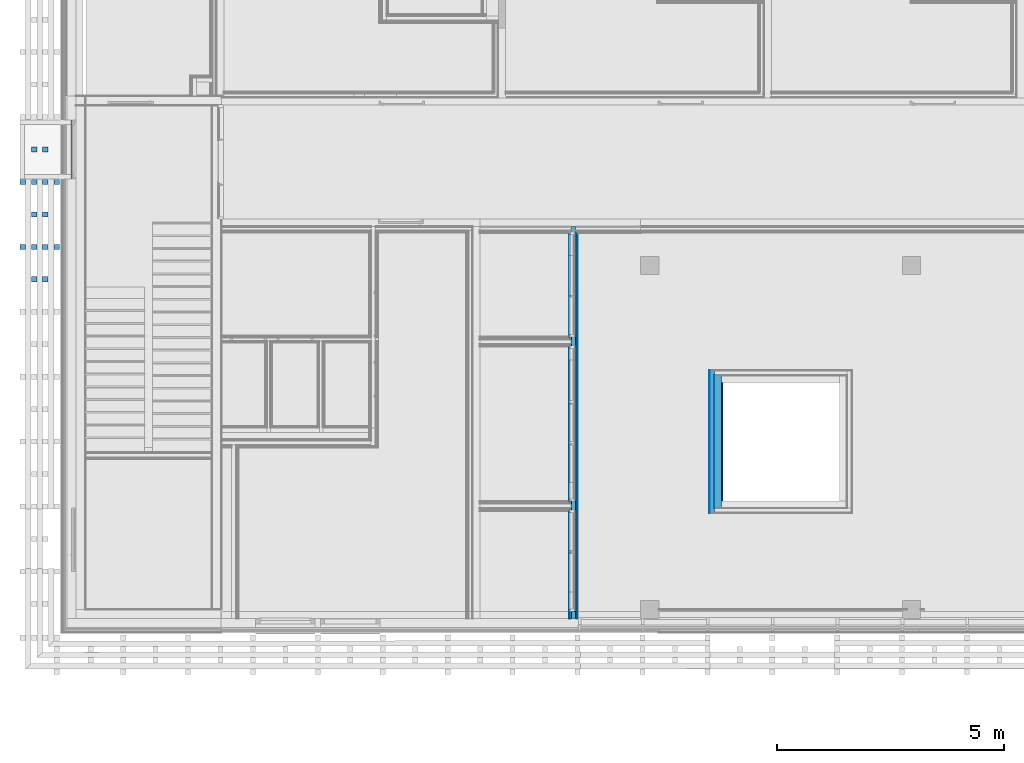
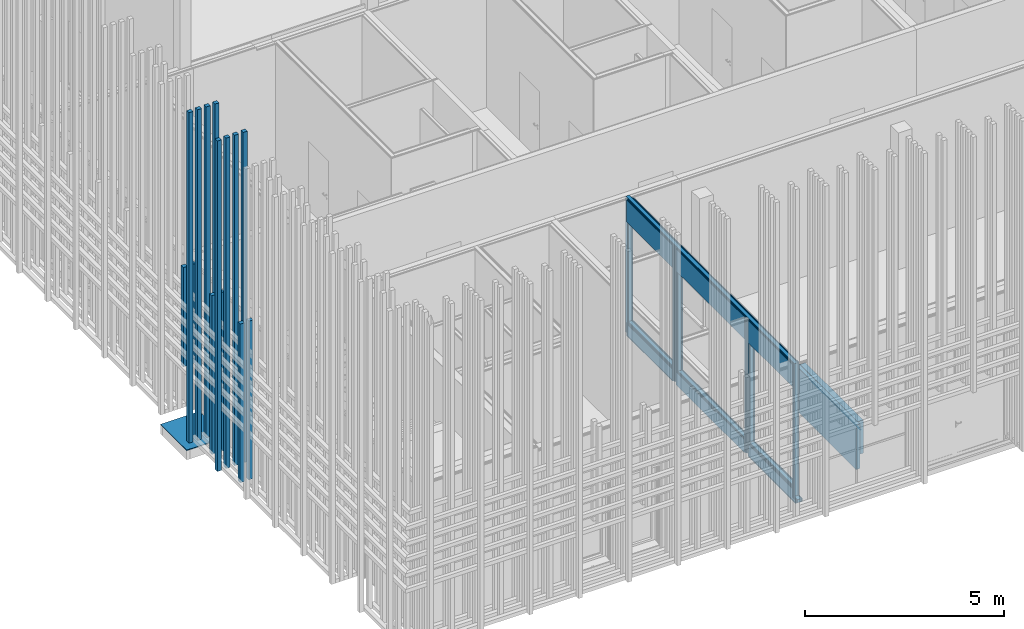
# One storey, part 153 of 260: 13 building element parts, 6 discrete accessories, 3 openings, 3 elements without a shape of their own.
"""IFC2X3 building model written with IfcOpenShell, lengths in millimetres."""

from ifc_helpers import new_model, entity, si_unit, converted_unit, derived_unit, money_unit, direction, frame, origin_with_axes, place, context, subcontext, project, spatial, faceted_brep, material, material_list, type_object, element, aggregate, save


model = new_model("IFC2X3")

# Units and contexts
model_context = context("Model", 3, precision=0.01, world=origin_with_axes(), true_north=direction((0.0, 1.0)))
body_context = subcontext(model_context, "Body", "Model", "MODEL_VIEW")
ifc_project = project(units=[si_unit("LENGTHUNIT", "METRE", prefix="MILLI"), si_unit("AREAUNIT", "SQUARE_METRE"), si_unit("VOLUMEUNIT", "CUBIC_METRE"), converted_unit("PLANEANGLEUNIT", "DEGREE", entity("IfcPlaneAngleMeasure", 0.0174532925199), si_unit("PLANEANGLEUNIT", "RADIAN"), dimensions=[0, 0, 0, 0, 0, 0, 0]), money_unit("EUR"), converted_unit("TIMEUNIT", "Year", entity("IfcTimeMeasure", 31556926.0), si_unit("TIMEUNIT", "SECOND"), dimensions=[0, 0, 1, 0, 0, 0, 0]), si_unit("MASSUNIT", "GRAM", prefix="KILO"), si_unit("THERMODYNAMICTEMPERATUREUNIT", "DEGREE_CELSIUS"), si_unit("LUMINOUSINTENSITYUNIT", "LUMEN"), si_unit("ENERGYUNIT", "JOULE", prefix="MEGA"), derived_unit("THERMALCONDUCTANCEUNIT", [(si_unit("POWERUNIT", "WATT"), 1), (si_unit("LENGTHUNIT", "METRE"), -1), (si_unit("THERMODYNAMICTEMPERATUREUNIT", "KELVIN"), -1)]), derived_unit("SPECIFICHEATCAPACITYUNIT", [(si_unit("ENERGYUNIT", "JOULE"), 1), (si_unit("MASSUNIT", "GRAM", prefix="KILO"), -1), (si_unit("THERMODYNAMICTEMPERATUREUNIT", "KELVIN"), -1)]), derived_unit("MASSDENSITYUNIT", [(si_unit("MASSUNIT", "GRAM", prefix="KILO"), 1), (si_unit("VOLUMEUNIT", "CUBIC_METRE"), -1)])], contexts=[model_context])

# Site, building, storey
site_placement = place(None, origin_with_axes())
site = spatial("IfcSite", under=ifc_project, at=site_placement, Name="Kolde pst 67a", CompositionType="ELEMENT")
building_placement = place(site_placement, origin_with_axes())
building = spatial("IfcBuilding", under=site, at=building_placement, Name="Riigigümnaasium", CompositionType="ELEMENT")
storey_placement = place(building_placement, origin_with_axes())
storey = spatial("IfcBuildingStorey", under=building, at=storey_placement, Name="1. korrus", CompositionType="ELEMENT", Elevation=0.0)

# Discrete accessories
ifc_material_1 = material(Name="_VÄLISVIIMISTLUS - sõrmjätkatud puitprussid 120x115mm, liitekohad vähemärgatavad, Platowood sõrmjätkatud kuusk või samaväärne; eeltöödeldud tuletõkkevõõbaga, tuletundlikkus B-s1, d0, Woodsafe Exterior WFX™ või samaväärne; kinnitused vastavalt EK osale")
ifc_material_list_1 = material_list([ifc_material_1, ifc_material_1, ifc_material_1, ifc_material_1])
discrete_accessory_type_1 = type_object("IfcDiscreteAccessoryType", Name="120 4-ne vertikaalne 870 x 115")
for number, where, z_axis, x_axis in (
    (1, (-310.003213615, 57672.2222773, 280.0), (0.0, 0.0, 1.0), (0.999999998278, -5.86859191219e-05, 0.0)),
    (2, (-310.003213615, 56242.2222773, 280.0), (0.0, 0.0, 1.0), (0.999999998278, -5.86859191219e-05, 0.0)),
):
    element("IfcDiscreteAccessory", number, at=place(storey_placement, frame(where, z_axis=z_axis, x_axis=x_axis)), inside=storey, type_object=discrete_accessory_type_1, material=ifc_material_list_1, Name="Päikesevarjestus", context=body_context, shape_type="Brep", body=[
        faceted_brep([(-133.0, -70.0, 0.0), (-13.0, -70.0, 0.0), (-13.0, -70.0, 10140.0), (-133.0, -70.0, 10140.0), (-133.0, 45.0, 0.0), (-13.0, 45.0, 0.0), (-13.0, 45.0, 10140.0), (-133.0, 45.0, 10140.0)], [[[0, 1, 2, 3]], [[0, 4, 5, 1]], [[1, 5, 6, 2]], [[3, 2, 6, 7]], [[4, 0, 3, 7]], [[5, 4, 7, 6]]]),
        faceted_brep([(-383.0, -70.0, 0.0), (-263.0, -70.0, 0.0), (-263.0, -70.0, 10140.0), (-383.0, -70.0, 10140.0), (-383.0, 45.0, 0.0), (-263.0, 45.0, 0.0), (-263.0, 45.0, 10140.0), (-383.0, 45.0, 10140.0)], [[[0, 1, 2, 3]], [[0, 4, 5, 1]], [[1, 5, 6, 2]], [[3, 2, 6, 7]], [[4, 0, 3, 7]], [[5, 4, 7, 6]]]),
        faceted_brep([(-633.0, -70.0, 0.0), (-513.0, -70.0, 0.0), (-513.0, -70.0, 10140.0), (-633.0, -70.0, 10140.0), (-633.0, 45.0, 0.0), (-513.0, 45.0, 0.0), (-513.0, 45.0, 10140.0), (-633.0, 45.0, 10140.0)], [[[0, 1, 2, 3]], [[0, 4, 5, 1]], [[1, 5, 6, 2]], [[3, 2, 6, 7]], [[4, 0, 3, 7]], [[5, 4, 7, 6]]]),
        faceted_brep([(-883.0, -70.0, 0.0), (-763.0, -70.0, 0.0), (-763.0, -70.0, 10140.0), (-883.0, -70.0, 10140.0), (-883.0, 45.0, 0.0), (-763.0, 45.0, 0.0), (-763.0, 45.0, 10140.0), (-883.0, 45.0, 10140.0)], [[[0, 1, 2, 3]], [[0, 4, 5, 1]], [[1, 5, 6, 2]], [[3, 2, 6, 7]], [[4, 0, 3, 7]], [[5, 4, 7, 6]]]),
    ])
ifc_material_list_2 = material_list([ifc_material_1, ifc_material_1])
discrete_accessory_type_2 = type_object("IfcDiscreteAccessoryType", Name="1+paiksekaitse 3 370 x 115")
discrete_accessory_1_placement = place(storey_placement, frame((-1290.00746728, 55454.7586626, 280.0), z_axis=(0.0, 0.0, 1.0), x_axis=(1.0, 0.0, 0.0)))
element("IfcDiscreteAccessory", 3, at=discrete_accessory_1_placement, inside=storey, type_object=discrete_accessory_type_2, material=ifc_material_list_2, Name="Päikesevarjestus", context=body_context, shape_type="Brep", body=[
    faceted_brep([(467.0, 117.5, 0.0), (347.0, 117.5, 0.0), (347.0, 117.5, 4870.0), (467.0, 117.5, 4870.0), (467.0, 2.5, 0.0), (347.0, 2.5, 0.0), (347.0, 2.5, 4870.0), (467.0, 2.5, 4870.0)], [[[0, 1, 2, 3]], [[0, 4, 5, 1]], [[1, 5, 6, 2]], [[3, 2, 6, 7]], [[4, 0, 3, 7]], [[5, 4, 7, 6]]]),
    faceted_brep([(717.0, 117.5, 0.0), (597.0, 117.5, 0.0), (597.0, 117.5, 4870.0), (717.0, 117.5, 4870.0), (717.0, 2.5, 0.0), (597.0, 2.5, 0.0), (597.0, 2.5, 4870.0), (717.0, 2.5, 4870.0)], [[[0, 1, 2, 3]], [[0, 4, 5, 1]], [[1, 5, 6, 2]], [[3, 2, 6, 7]], [[4, 0, 3, 7]], [[5, 4, 7, 6]]]),
])
discrete_accessory_2_placement = place(storey_placement, frame((-1290.00746728, 56884.7586626, 280.0), z_axis=(0.0, 0.0, 1.0), x_axis=(1.0, 0.0, 0.0)))
element("IfcDiscreteAccessory", 4, at=discrete_accessory_2_placement, inside=storey, type_object=discrete_accessory_type_2, material=ifc_material_list_2, Name="Päikesevarjestus", context=body_context, shape_type="Brep", body=[
    faceted_brep([(467.0, 117.5, 0.0), (347.0, 117.5, 0.0), (347.0, 117.5, 4870.00014213), (467.0, 117.5, 4870.00014213), (467.0, 2.5, 0.0), (347.0, 2.5, 0.0), (347.0, 2.5, 4870.00014213), (467.0, 2.5, 4870.00014213)], [[[0, 1, 2, 3]], [[0, 4, 5, 1]], [[1, 5, 6, 2]], [[3, 2, 6, 7]], [[4, 0, 3, 7]], [[5, 4, 7, 6]]]),
    faceted_brep([(717.0, 117.5, 0.0), (597.0, 117.5, 0.0), (597.0, 117.5, 4870.00014213), (717.0, 117.5, 4870.00014213), (717.0, 2.5, 0.0), (597.0, 2.5, 0.0), (597.0, 2.5, 4870.00014213), (717.0, 2.5, 4870.00014213)], [[[0, 1, 2, 3]], [[0, 4, 5, 1]], [[1, 5, 6, 2]], [[3, 2, 6, 7]], [[4, 0, 3, 7]], [[5, 4, 7, 6]]]),
])
discrete_accessory_3_placement = place(storey_placement, frame((-1290.00746728, 58314.7586626, 2100.00014213), z_axis=(0.0, 0.0, 1.0), x_axis=(1.0, 0.0, 0.0)))
element("IfcDiscreteAccessory", 5, at=discrete_accessory_3_placement, inside=storey, type_object=discrete_accessory_type_2, material=ifc_material_list_2, Name="Päikesevarjestus", context=body_context, shape_type="Brep", body=[
    faceted_brep([(467.0, 117.5, 0.0), (347.0, 117.5, 0.0), (347.0, 117.5, 3050.0), (467.0, 117.5, 3050.0), (467.0, 2.5, 0.0), (347.0, 2.5, 0.0), (347.0, 2.5, 3050.0), (467.0, 2.5, 3050.0)], [[[0, 1, 2, 3]], [[0, 4, 5, 1]], [[1, 5, 6, 2]], [[3, 2, 6, 7]], [[4, 0, 3, 7]], [[5, 4, 7, 6]]]),
    faceted_brep([(717.0, 117.5, 0.0), (597.0, 117.5, 0.0), (597.0, 117.5, 3050.0), (717.0, 117.5, 3050.0), (717.0, 2.5, 0.0), (597.0, 2.5, 0.0), (597.0, 2.5, 3050.0), (717.0, 2.5, 3050.0)], [[[0, 1, 2, 3]], [[0, 4, 5, 1]], [[1, 5, 6, 2]], [[3, 2, 6, 7]], [[4, 0, 3, 7]], [[5, 4, 7, 6]]]),
])
ifc_material_2 = material(Name="_METALL - teras")
discrete_accessory_type_3 = type_object("IfcDiscreteAccessoryType", Name="_METALL - teras 22")
discrete_accessory_4_placement = place(storey_placement, frame((-1191.30730667, 59029.7739288, 0.0), z_axis=(0.0, 0.0, 1.0), x_axis=(1.0, 0.0, 0.0)))
element("IfcDiscreteAccessory", 6, at=discrete_accessory_4_placement, inside=storey, type_object=discrete_accessory_type_3, material=ifc_material_2, Name="30mm süvistatud roostevaba porirest betoonalusel vastavalt EK osale, kalle kaevu poole ≥1:80; resti silm 33x11mm, hambuline; porirest eemaldatav puhastuseks; vt joonist AR-7-207; sadevee kogumiseks resti all settepõhjaga restkaev, maapinnast -200mm kõrgusel, vesi koguneb sadeveetorustikku, vt VK osa", context=body_context, shape_type="Brep", body=[
    faceted_brep([(0.0, 0.0, 0.0), (0.0, 0.0, -22.0), (0.00704231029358, -1310.00000018, -22.0), (0.00704231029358, -1310.00000018, 0.0), (1130.69360118, 0.00607839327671, 0.0), (1130.69360118, 0.00607839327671, -22.0), (1130.70064349, -1309.99392179, -22.0), (1130.70064349, -1309.99392179, 0.0)], [[[0, 1, 2, 3]], [[4, 5, 1, 0]], [[2, 1, 5, 6]], [[3, 2, 6, 7]], [[4, 0, 3, 7]], [[7, 6, 5, 4]]]),
])

# Wall, building element parts
wall_type_1 = type_object("IfcWallType", Name="VS-RB-16/1_mullakast 273", PredefinedType="NOTDEFINED")
wall_1_placement = place(storey_placement, frame((14105.000519, 53394.9876282, -1460.1), z_axis=(0.0, 0.0, 1.0), x_axis=(0.0, -1.0, 0.0)))
wall_1 = element("IfcWall", 7, at=wall_1_placement, inside=storey, type_object=wall_type_1, Name="taimekast")
ifc_material_3 = material(Name="_KANDETARIND - monoliitne raudbetoon vastavalt EK osale")
building_element_part_1_placement = place(wall_1_placement, origin_with_axes())
building_element_part_1 = element("IfcBuildingElementPart", 8, at=building_element_part_1_placement, material=ifc_material_3, Name="_KANDETARIND - monoliitne raudbetoon vastavalt EK osale", context=body_context, shape_type="Brep", body=[
    faceted_brep([(2920.0, 160.0, 350.1), (0.0, 160.0, 350.1), (0.0, 160.0, 1360.1), (2920.0, 160.0, 1360.1), (0.0, 0.0, 350.1), (2920.0, 0.0, 350.1), (0.0, 0.0, 1360.1), (2920.0, 0.0, 1360.1)], [[[0, 1, 2, 3]], [[4, 1, 0, 5]], [[1, 4, 6, 2]], [[7, 3, 2, 6]], [[5, 0, 3, 7]], [[4, 5, 7, 6]]]),
])
ifc_material_4 = material(Name="_HÜDROISOLATSIOON/RADOONITÕKE - eelpaigaldatav elastne hüdroisolatsioonimembraan, värske betooniga nakkuv, radoonitihe, FORSOC PROOFEX 3000 või samaväärne")
building_element_part_2_placement = place(wall_1_placement, origin_with_axes())
building_element_part_2 = element("IfcBuildingElementPart", 9, at=building_element_part_2_placement, material=ifc_material_4, Name="_HÜDROISOLATSIOON/RADOONITÕKE - eelpaigaldatav elastne hüdroisolatsioonimembraan, värske betooniga nakkuv, radoonitihe, FORSOC PROOFEX 3000 või samaväärne", context=body_context, shape_type="Brep", body=[
    faceted_brep([(2923.0, 0.0, 350.1), (-3.0, 0.0, 350.1), (-3.0, 0.0, 1360.1), (2923.0, 0.0, 1360.1), (-3.0, -3.0, 350.1), (2923.0, -3.0, 350.1), (-3.0, -3.0, 1360.1), (2923.0, -3.0, 1360.1)], [[[0, 1, 2, 3]], [[4, 1, 0, 5]], [[1, 4, 6, 2]], [[7, 3, 2, 6]], [[5, 0, 3, 7]], [[4, 5, 7, 6]]]),
])
ifc_material_5 = material(Name="_SOOJUSTUS - vahtpolüstüreenplaadid EPS 120 Perimeeter, survetugevus min. 120kPa, veeimavus <2%, soojuserijuhtivus λD<0,036 W/(mK)")
building_element_part_3_placement = place(wall_1_placement, origin_with_axes())
building_element_part_3 = element("IfcBuildingElementPart", 10, at=building_element_part_3_placement, material=ifc_material_5, Name="_SOOJUSTUS - vahtpolüstüreenplaadid EPS 120 Perimeeter, survetugevus min. 120kPa, veeimavus <2%, soojuserijuhtivus λD<0,036 W/(mK)", context=body_context, shape_type="Brep", body=[
    faceted_brep([(2963.0, -3.0, 0.0), (2963.0, -3.0, 350.1), (-43.0, -3.0, 350.1), (-43.0, -3.0, 0.0), (-103.0, -3.0, 0.0), (-103.0, -3.0, 1360.1), (3023.0, -3.0, 1360.1), (3023.0, -3.0, 0.0), (2963.0, -43.0, 0.0), (2963.0, -43.0, 350.1), (-43.0, -43.0, 350.1), (-43.0, -43.0, 0.0), (3023.0, -103.0, 0.0), (-103.0, -103.0, 0.0), (-103.0, -103.0, 1360.1), (3023.0, -103.0, 1360.1)], [[[0, 1, 2, 3, 4, 5, 6, 7]], [[1, 0, 8, 9]], [[2, 1, 9, 10]], [[3, 2, 10, 11]], [[8, 0, 7, 12, 13, 4, 3, 11]], [[5, 4, 13, 14]], [[15, 6, 5, 14]], [[12, 7, 6, 15]], [[8, 11, 10, 9]], [[12, 15, 14, 13]]]),
])
ifc_material_6 = material(Name="_ALUSKATE - drenaaži- ja kaitsematt geotekstiiliga soojustuse kaitseks, Interplast Iso-Drain 8 Geo või samaväärne")
building_element_part_4_placement = place(wall_1_placement, origin_with_axes())
building_element_part_4 = element("IfcBuildingElementPart", 11, at=building_element_part_4_placement, material=ifc_material_6, Name="_ALUSKATE - drenaaži- ja kaitsematt geotekstiiliga soojustuse kaitseks, Interplast Iso-Drain 8 Geo või samaväärne", context=body_context, shape_type="Brep", body=[
    faceted_brep([(3033.0, -113.0, 0.0), (-113.0, -113.0, 0.0), (-113.0, -103.0, 0.0), (3033.0, -103.0, 0.0), (3033.0, -113.0, 1360.1), (-113.0, -113.0, 1360.1), (-113.0, -103.0, 1360.1), (3033.0, -103.0, 1360.1)], [[[0, 1, 2, 3]], [[4, 5, 1, 0]], [[2, 1, 5, 6]], [[3, 2, 6, 7]], [[3, 7, 4, 0]], [[7, 6, 5, 4]]]),
])
aggregate(wall_1, [building_element_part_1, building_element_part_2, building_element_part_3, building_element_part_4])

# Wall, openings, building element parts
wall_type_2 = type_object("IfcWallType", Name="SS-PK-10/1_vill100+2dold 220", PredefinedType="NOTDEFINED")
wall_2_placement = place(storey_placement, frame((11110.0462125, 56839.9979478, 0.0), z_axis=(0.0, 0.0, 1.0), x_axis=(-0.000164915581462, -0.999999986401, 0.0)))
wall_2 = element("IfcWall", 12, at=wall_2_placement, inside=storey, type_object=wall_type_2, Name="Sisesein")
opening_1_placement = place(wall_2_placement, frame((1452.52344941, 0.0, 400.0), z_axis=(0.0, 0.0, 1.0), x_axis=(1.0, 0.0, 0.0)))
element("IfcOpeningElement", 13, at=opening_1_placement, cuts=wall_2, Name="Ava", context=body_context, shape_type="Brep", body=[
    faceted_brep([(1162.48056742, 220.0, 0.0), (1162.48056742, 220.0, 3090.0), (1162.48056742, -440.0, 3090.0), (1162.48056742, -440.0, 0.0), (-1162.48056742, 220.0, 0.0), (-1162.48056742, 220.0, 3090.0), (-1162.48056742, -440.0, 3090.0), (-1162.48056742, -440.0, 0.0)], [[[0, 1, 2, 3]], [[0, 4, 5, 1]], [[1, 5, 6, 2]], [[3, 2, 6, 7]], [[4, 0, 3, 7]], [[5, 4, 7, 6]]]),
])
opening_2_placement = place(wall_2_placement, frame((4512.1947449, 0.0, 400.0), z_axis=(0.0, 0.0, 1.0), x_axis=(1.0, 0.0, 0.0)))
element("IfcOpeningElement", 14, at=opening_2_placement, cuts=wall_2, Name="Ava", context=body_context, shape_type="Brep", body=[
    faceted_brep([(1717.15691732, 220.0, 0.0), (1717.15691732, 220.0, 3090.0), (1717.15691732, -440.0, 3090.0), (1717.15691732, -440.0, 0.0), (-1717.15691732, 220.0, 0.0), (-1717.15691732, 220.0, 3090.0), (-1717.15691732, -440.0, 3090.0), (-1717.15691732, -440.0, 0.0)], [[[0, 1, 2, 3]], [[0, 4, 5, 1]], [[1, 5, 6, 2]], [[3, 2, 6, 7]], [[4, 0, 3, 7]], [[5, 4, 7, 6]]]),
])
opening_3_placement = place(wall_2_placement, frame((7524.71632107, 0.0, 400.0), z_axis=(0.0, 0.0, 1.0), x_axis=(1.0, 0.0, 0.0)))
element("IfcOpeningElement", 15, at=opening_3_placement, cuts=wall_2, Name="Ava", context=body_context, shape_type="Brep", body=[
    faceted_brep([(1114.66591155, 220.0, 0.0), (1114.66591155, 220.0, 3090.0), (1114.66591155, -440.0, 3090.0), (1114.66591155, -440.0, 0.0), (-1114.66591155, 220.0, 0.0), (-1114.66591155, 220.0, 3090.0), (-1114.66591155, -440.0, 3090.0), (-1114.66591155, -440.0, 0.0)], [[[0, 1, 2, 3]], [[0, 4, 5, 1]], [[1, 5, 6, 2]], [[3, 2, 6, 7]], [[4, 0, 3, 7]], [[5, 4, 7, 6]]]),
])
ifc_material_7 = material(Name="_KARKASS - eriprofiilkinnitus vastavalt sisemisele plaatviimistlusele")
building_element_part_5_placement = place(wall_2_placement, origin_with_axes())
building_element_part_5 = element("IfcBuildingElementPart", 16, at=building_element_part_5_placement, material=ifc_material_7, Name="_KARKASS - eriprofiilkinnitus vastavalt sisemisele plaatviimistlusele", context=body_context, shape_type="Brep", body=[
    faceted_brep([(8800.02218417, -30.0, 100.0), (8640.02218199, -30.0, 100.0), (8640.02218199, -30.0, 4170.0), (300.004951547, -30.0, 4170.0), (300.004951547, -30.0, 3490.0), (2615.00401683, -30.0, 3490.0), (2615.00401683, -30.0, 400.0), (300.004951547, -30.0, 400.0), (300.004951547, -30.0, 0.0), (8800.0172367, -30.0, 0.0), (2795.03782758, -30.0, 400.0), (2795.03782758, -30.0, 3490.0), (6229.35166222, -30.0, 3490.0), (6229.35166222, -30.0, 400.0), (8639.38223262, -30.0, 400.0), (6410.05040952, -30.0, 400.0), (6410.05040952, -30.0, 3490.0), (8639.38223262, -30.0, 3490.0), (8800.02053501, -20.0, 100.0), (8640.02053284, -20.0, 100.0), (8640.02053284, -20.0, 4170.0), (300.003302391, -20.0, 4170.0), (300.003302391, -20.0, 3490.0), (2615.00401683, -20.0, 3490.0), (2615.00401683, -20.0, 400.0), (300.003302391, -20.0, 400.0), (300.003302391, -20.0, 0.0), (8800.0172367, -20.0, 0.0), (2795.03782758, -20.0, 3490.0), (2795.03782758, -20.0, 400.0), (6229.35166222, -20.0, 3490.0), (6229.35166222, -20.0, 400.0), (8639.38223262, -20.0, 400.0), (6410.05040952, -20.0, 400.0), (6410.05040952, -20.0, 3490.0), (8639.38223262, -20.0, 3490.0)], [[[0, 1, 2, 3, 4, 5, 6, 7, 8, 9], [10, 11, 12, 13], [14, 15, 16, 17]], [[1, 0, 18, 19]], [[19, 20, 2, 1]], [[2, 20, 21, 3]], [[3, 21, 22, 4]], [[23, 5, 4, 22]], [[6, 5, 23, 24]], [[7, 6, 24, 25]], [[26, 8, 7, 25]], [[8, 26, 27, 9]], [[9, 27, 18, 0]], [[28, 11, 10, 29]], [[30, 12, 11, 28]], [[31, 13, 12, 30]], [[29, 10, 13, 31]], [[32, 33, 15, 14]], [[33, 34, 16, 15]], [[34, 35, 17, 16]], [[35, 32, 14, 17]], [[20, 19, 18, 27, 26, 25, 24, 23, 22, 21], [30, 28, 29, 31], [32, 35, 34, 33]]]),
])
ifc_material_8 = material(Name="_PLAATMATERJAL - tuletõkkekipsplaat, Knauf Red GKF või samaväärne")
building_element_part_6_placement = place(wall_2_placement, origin_with_axes())
building_element_part_6 = element("IfcBuildingElementPart", 17, at=building_element_part_6_placement, material=ifc_material_8, Name="_PLAATMATERJAL - tuletõkkekipsplaat, Knauf Red GKF või samaväärne", context=body_context, shape_type="Brep", body=[
    faceted_brep([(8800.0172367, -45.0, 0.0), (8800.0246579, -45.0, 100.0), (8640.02465573, -45.0, 100.0), (8640.02465573, -45.0, 4170.0), (290.007425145, -45.0, 4170.0), (290.007425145, -45.0, 0.0), (290.042881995, -45.0, 3490.0), (2615.00401683, -45.0, 3490.0), (2615.00401683, -45.0, 400.0), (290.042881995, -45.0, 400.0), (2795.03782758, -45.0, 400.0), (2795.03782758, -45.0, 3490.0), (6229.35166222, -45.0, 3490.0), (6229.35166222, -45.0, 400.0), (8639.38223262, -45.0, 400.0), (6410.05040952, -45.0, 400.0), (6410.05040952, -45.0, 3490.0), (8639.38223262, -45.0, 3490.0), (8800.0172367, -30.0, 0.0), (8800.02218417, -30.0, 100.0), (8640.02218199, -30.0, 100.0), (8640.02218199, -30.0, 4170.0), (290.004951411, -30.0, 4170.0), (290.004951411, -30.0, 0.0), (290.042881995, -30.0, 3490.0), (2615.00401683, -30.0, 3490.0), (2615.00401683, -30.0, 400.0), (290.042881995, -30.0, 400.0), (2795.03782758, -30.0, 3490.0), (2795.03782758, -30.0, 400.0), (6229.35166222, -30.0, 3490.0), (6229.35166222, -30.0, 400.0), (8639.38223262, -30.0, 400.0), (6410.05040952, -30.0, 400.0), (6410.05040952, -30.0, 3490.0), (8639.38223262, -30.0, 3490.0)], [[[0, 1, 2, 3, 4, 5], [6, 7, 8, 9], [10, 11, 12, 13], [14, 15, 16, 17]], [[0, 18, 19, 1]], [[2, 1, 19, 20]], [[20, 21, 3, 2]], [[3, 21, 22, 4]], [[5, 4, 22, 23]], [[5, 23, 18, 0]], [[7, 6, 24, 25]], [[8, 7, 25, 26]], [[9, 8, 26, 27]], [[6, 9, 27, 24]], [[28, 11, 10, 29]], [[30, 12, 11, 28]], [[31, 13, 12, 30]], [[29, 10, 13, 31]], [[32, 33, 15, 14]], [[33, 34, 16, 15]], [[34, 35, 17, 16]], [[35, 32, 14, 17]], [[19, 18, 23, 22, 21, 20], [24, 27, 26, 25], [30, 28, 29, 31], [32, 35, 34, 33]]]),
])
building_element_part_7_placement = place(wall_2_placement, origin_with_axes())
building_element_part_7 = element("IfcBuildingElementPart", 18, at=building_element_part_7_placement, material=ifc_material_8, Name="_PLAATMATERJAL - tuletõkkekipsplaat, Knauf Red GKF või samaväärne", context=body_context, shape_type="Brep", body=[
    faceted_brep([(8800.0172367, -60.0, 0.0), (8800.0172367, -60.0, 100.0), (8640.02712946, -60.0, 100.0), (8640.02712946, -60.0, 4170.0), (275.009898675, -60.0, 4170.0), (275.009898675, -60.0, 0.0), (290.042881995, -60.0, 3490.0), (2615.00401683, -60.0, 3490.0), (2615.00401683, -60.0, 400.0), (290.042881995, -60.0, 400.0), (2795.03782758, -60.0, 400.0), (2795.03782758, -60.0, 3490.0), (6229.35166222, -60.0, 3490.0), (6229.35166222, -60.0, 400.0), (8639.38223262, -60.0, 400.0), (6410.05040952, -60.0, 400.0), (6410.05040952, -60.0, 3490.0), (8639.38223262, -60.0, 3490.0), (8800.0172367, -45.0, 0.0), (8800.0172367, -45.0, 100.0), (8640.02465573, -45.0, 100.0), (8640.02465573, -45.0, 4170.0), (275.007424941, -45.0, 4170.0), (275.007424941, -45.0, 0.0), (290.042881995, -45.0, 3490.0), (2615.00401683, -45.0, 3490.0), (2615.00401683, -45.0, 400.0), (290.042881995, -45.0, 400.0), (2795.03782758, -45.0, 3490.0), (2795.03782758, -45.0, 400.0), (6229.35166222, -45.0, 3490.0), (6229.35166222, -45.0, 400.0), (8639.38223262, -45.0, 400.0), (6410.05040952, -45.0, 400.0), (6410.05040952, -45.0, 3490.0), (8639.38223262, -45.0, 3490.0)], [[[0, 1, 2, 3, 4, 5], [6, 7, 8, 9], [10, 11, 12, 13], [14, 15, 16, 17]], [[0, 18, 19, 1]], [[2, 1, 19, 20]], [[20, 21, 3, 2]], [[3, 21, 22, 4]], [[5, 4, 22, 23]], [[5, 23, 18, 0]], [[7, 6, 24, 25]], [[8, 7, 25, 26]], [[9, 8, 26, 27]], [[6, 9, 27, 24]], [[28, 11, 10, 29]], [[30, 12, 11, 28]], [[31, 13, 12, 30]], [[29, 10, 13, 31]], [[32, 33, 15, 14]], [[33, 34, 16, 15]], [[34, 35, 17, 16]], [[35, 32, 14, 17]], [[19, 18, 23, 22, 21, 20], [24, 27, 26, 25], [30, 28, 29, 31], [32, 35, 34, 33]]]),
])
ifc_material_9 = material(Name="_KARKASS - puitpruss 100x50mm vertikaalne, samm 600mm, vahel mineraalvill, helineeldetegur αw = 1.0, ISOVER ACOUSTIC 100mm või samaväärne")
building_element_part_8_placement = place(wall_2_placement, origin_with_axes())
building_element_part_8 = element("IfcBuildingElementPart", 19, at=building_element_part_8_placement, material=ifc_material_9, Name="_KARKASS - puitpruss 100x50mm vertikaalne, samm 600mm, vahel mineraalvill, helineeldetegur αw = 1.0, ISOVER ACOUSTIC 100mm või samaväärne", context=body_context, shape_type="Brep", body=[
    faceted_brep([(8800.0172367, -160.0, 0.0), (8800.0172367, -160.0, 100.0), (8640.04362102, -160.0, 100.0), (8640.04362102, -160.0, 4170.0), (160.026388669, -160.0, 4170.0), (160.026388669, -160.0, 0.0), (290.042881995, -160.0, 3490.0), (2615.00401683, -160.0, 3490.0), (2615.00401683, -160.0, 400.0), (290.042881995, -160.0, 400.0), (2795.03782758, -160.0, 400.0), (2795.03782758, -160.0, 3490.0), (6229.35166222, -160.0, 3490.0), (6229.35166222, -160.0, 400.0), (8639.38223262, -160.0, 400.0), (6410.05040952, -160.0, 400.0), (6410.05040952, -160.0, 3490.0), (8639.38223262, -160.0, 3490.0), (8800.0172367, -60.0, 0.0), (8800.02713164, -59.9999983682, 100.0), (8640.02712946, -60.0, 100.0), (8640.02712946, -60.0, 4170.0), (160.009897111, -60.0, 4170.0), (160.009897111, -60.0, 0.0), (290.042881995, -60.0, 3490.0), (2615.00401683, -60.0, 3490.0), (2615.00401683, -60.0, 400.0), (290.042881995, -60.0, 400.0), (2795.03782758, -59.9999983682, 3490.0), (2795.03782758, -59.9999983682, 400.0), (6229.35166222, -59.9999983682, 3490.0), (6229.35166222, -59.9999983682, 400.0), (8639.38223262, -60.0, 400.0), (6410.05040952, -60.0, 400.0), (6410.05040952, -60.0, 3490.0), (8639.38223262, -60.0, 3490.0)], [[[0, 1, 2, 3, 4, 5], [6, 7, 8, 9], [10, 11, 12, 13], [14, 15, 16, 17]], [[0, 18, 19, 1]], [[2, 1, 19, 20]], [[20, 21, 3, 2]], [[3, 21, 22, 4]], [[5, 4, 22, 23]], [[0, 5, 23, 18]], [[7, 6, 24, 25]], [[8, 7, 25, 26]], [[9, 8, 26, 27]], [[6, 9, 27, 24]], [[28, 11, 10, 29]], [[30, 12, 11, 28]], [[31, 13, 12, 30]], [[29, 10, 13, 31]], [[32, 33, 15, 14]], [[33, 34, 16, 15]], [[34, 35, 17, 16]], [[35, 32, 14, 17]], [[19, 18, 23, 22, 21, 20], [24, 27, 26, 25], [30, 28, 29, 31], [32, 35, 34, 33]]]),
])
building_element_part_9_placement = place(wall_2_placement, origin_with_axes())
building_element_part_9 = element("IfcBuildingElementPart", 20, at=building_element_part_9_placement, material=ifc_material_8, Name="_PLAATMATERJAL - tuletõkkekipsplaat, Knauf Red GKF või samaväärne", context=body_context, shape_type="Brep", body=[
    faceted_brep([(8800.0172367, -175.0, 0.0), (8800.0172367, -175.0, 100.0), (8640.04609475, -175.0, 100.0), (8640.04609475, -175.0, 4170.0), (6370.04656403, -175.0, 4170.0), (6370.04656403, -175.0, 0.0), (8639.38223262, -175.0, 400.0), (6410.05040952, -175.0, 400.0), (6410.05040952, -175.0, 3490.0), (8639.38223262, -175.0, 3490.0), (8800.0172367, -160.0, 100.0), (8800.0172367, -160.0, 0.0), (8640.04362102, -160.0, 100.0), (8640.04362102, -160.0, 4170.0), (6370.04425702, -160.0, 4170.0), (6370.04425702, -160.0, 0.0), (8639.38223262, -160.0, 400.0), (6410.05040952, -160.0, 400.0), (6410.05040952, -160.0, 3490.0), (8639.38223262, -160.0, 3490.0)], [[[0, 1, 2, 3, 4, 5], [6, 7, 8, 9]], [[10, 1, 0, 11]], [[10, 12, 2, 1]], [[3, 2, 12, 13]], [[14, 4, 3, 13]], [[14, 15, 5, 4]], [[15, 11, 0, 5]], [[16, 17, 7, 6]], [[17, 18, 8, 7]], [[18, 19, 9, 8]], [[19, 16, 6, 9]], [[10, 11, 15, 14, 13, 12], [16, 19, 18, 17]]]),
    faceted_brep([(2755.03090607, -175.0, 4170.0), (2755.03090607, -175.0, 0.0), (6270.04656284, -175.0, 0.0), (6270.04656284, -175.0, 4170.0), (6229.35166222, -175.0, 400.0), (2795.03782758, -175.0, 400.0), (2795.03782758, -175.0, 3490.0), (6229.35166222, -175.0, 3490.0), (2755.02859906, -160.0, 4170.0), (2755.02859906, -160.0, 0.0), (6270.04425583, -160.0, 0.0), (6270.04425583, -160.0, 4170.0), (6229.35166222, -160.0, 400.0), (2795.03782758, -160.0, 400.0), (2795.03782758, -160.0, 3490.0), (6229.35166222, -160.0, 3490.0)], [[[0, 1, 2, 3], [4, 5, 6, 7]], [[8, 9, 1, 0]], [[2, 1, 9, 10]], [[3, 2, 10, 11]], [[8, 0, 3, 11]], [[12, 13, 5, 4]], [[13, 14, 6, 5]], [[14, 15, 7, 6]], [[15, 12, 4, 7]], [[11, 10, 9, 8], [12, 15, 14, 13]]]),
    faceted_brep([(275.028863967, -175.0, 4170.0), (275.028863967, -175.0, 0.0), (2655.03090488, -175.0, 0.0), (2655.03090488, -175.0, 4170.0), (2615.00401683, -175.0, 400.0), (290.042881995, -175.0, 400.0), (290.042881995, -175.0, 3490.0), (2615.00401683, -175.0, 3490.0), (275.026390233, -160.0, 4170.0), (275.026390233, -160.0, 0.0), (2655.02859787, -160.0, 0.0), (2655.02859787, -160.0, 4170.0), (2615.00401683, -160.0, 400.0), (290.042881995, -160.0, 400.0), (290.042881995, -160.0, 3490.0), (2615.00401683, -160.0, 3490.0)], [[[0, 1, 2, 3], [4, 5, 6, 7]], [[8, 9, 1, 0]], [[2, 1, 9, 10]], [[3, 2, 10, 11]], [[8, 0, 3, 11]], [[12, 13, 5, 4]], [[13, 14, 6, 5]], [[14, 15, 7, 6]], [[15, 12, 4, 7]], [[11, 10, 9, 8], [12, 15, 14, 13]]]),
])
building_element_part_10_placement = place(wall_2_placement, origin_with_axes())
building_element_part_10 = element("IfcBuildingElementPart", 21, at=building_element_part_10_placement, material=ifc_material_8, Name="_PLAATMATERJAL - tuletõkkekipsplaat, Knauf Red GKF või samaväärne", context=body_context, shape_type="Brep", body=[
    faceted_brep([(8800.0172367, -190.0, 0.0), (8800.0172367, -190.0, 100.0), (8640.04856849, -190.0, 100.0), (8640.04856849, -190.0, 4170.0), (6385.04887122, -190.0, 4170.0), (6385.04887122, -190.0, 0.0), (8639.38223262, -190.0, 400.0), (6410.05040952, -190.0, 400.0), (6410.05040952, -190.0, 3490.0), (8639.38223262, -190.0, 3490.0), (8800.0172367, -175.0, 100.0), (8800.0172367, -175.0, 0.0), (8640.04609475, -175.0, 100.0), (8640.04609475, -175.0, 4170.0), (6385.0465642, -175.0, 4170.0), (6385.0465642, -175.0, 0.0), (8639.38223262, -175.0, 400.0), (6410.05040952, -175.0, 400.0), (6410.05040952, -175.0, 3490.0), (8639.38223262, -175.0, 3490.0)], [[[0, 1, 2, 3, 4, 5], [6, 7, 8, 9]], [[10, 1, 0, 11]], [[10, 12, 2, 1]], [[3, 2, 12, 13]], [[14, 4, 3, 13]], [[14, 15, 5, 4]], [[15, 11, 0, 5]], [[16, 17, 7, 6]], [[17, 18, 8, 7]], [[18, 19, 9, 8]], [[19, 16, 6, 9]], [[10, 11, 15, 14, 13, 12], [16, 19, 18, 17]]]),
    faceted_brep([(2770.03321326, -190.0, 4170.0), (2770.03321326, -190.0, 0.0), (6255.04886968, -190.0, 0.0), (6255.04886968, -190.0, 4170.0), (6229.35166222, -190.0, 400.0), (2795.03782758, -190.0, 400.0), (2795.03782758, -190.0, 3490.0), (6229.35166222, -190.0, 3490.0), (2770.03090624, -175.0, 4170.0), (2770.03090624, -175.0, 0.0), (6255.04656267, -175.0, 0.0), (6255.04656267, -175.0, 4170.0), (6229.35166222, -175.0, 400.0), (2795.03782758, -175.0, 400.0), (2795.03782758, -175.0, 3490.0), (6229.35166222, -175.0, 3490.0)], [[[0, 1, 2, 3], [4, 5, 6, 7]], [[8, 9, 1, 0]], [[2, 1, 9, 10]], [[3, 2, 10, 11]], [[8, 0, 3, 11]], [[12, 13, 5, 4]], [[13, 14, 6, 5]], [[14, 15, 7, 6]], [[15, 12, 4, 7]], [[11, 10, 9, 8], [12, 15, 14, 13]]]),
    faceted_brep([(290.031337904, -190.0, 4170.0), (290.031337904, -190.0, 0.0), (2640.03321172, -190.0, 0.0), (2640.03321172, -190.0, 4170.0), (2615.00401683, -190.0, 400.0), (290.042881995, -190.0, 400.0), (290.042881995, -190.0, 3490.0), (2615.00401683, -190.0, 3490.0), (290.028864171, -175.0, 4170.0), (290.028864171, -175.0, 0.0), (2640.03090471, -175.0, 0.0), (2640.03090471, -175.0, 4170.0), (2615.00401683, -175.0, 400.0), (290.042881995, -175.0, 400.0), (290.042881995, -175.0, 3490.0), (2615.00401683, -175.0, 3490.0)], [[[0, 1, 2, 3], [4, 5, 6, 7]], [[8, 9, 1, 0]], [[2, 1, 9, 10]], [[3, 2, 10, 11]], [[8, 0, 3, 11]], [[12, 13, 5, 4]], [[13, 14, 6, 5]], [[14, 15, 7, 6]], [[15, 12, 4, 7]], [[11, 10, 9, 8], [12, 15, 14, 13]]]),
])
building_element_part_11_placement = place(wall_2_placement, origin_with_axes())
building_element_part_11 = element("IfcBuildingElementPart", 22, at=building_element_part_11_placement, material=ifc_material_7, Name="_KARKASS - eriprofiilkinnitus vastavalt sisemisele plaatviimistlusele", context=body_context, shape_type="Brep", body=[
    faceted_brep([(8800.0172367, -200.0, 0.0), (8800.0172367, -200.0, 100.0), (8640.05021764, -200.0, 100.0), (8640.05021764, -200.0, 4170.0), (6400.0504094, -200.0, 4170.0), (6400.0504094, -200.0, 0.0), (8639.38223262, -200.0, 400.0), (6410.05040952, -200.0, 400.0), (6410.05040952, -200.0, 3490.0), (8639.38223262, -200.0, 3490.0), (8800.0172367, -190.0, 100.0), (8800.0172367, -190.0, 0.0), (8640.04856849, -190.0, 100.0), (8640.04856849, -190.0, 4170.0), (6400.04887139, -190.0, 4170.0), (6400.04887139, -190.0, 0.0), (8639.38223262, -190.0, 400.0), (6410.05040952, -190.0, 400.0), (6410.05040952, -190.0, 3490.0), (8639.38223262, -190.0, 3490.0)], [[[0, 1, 2, 3, 4, 5], [6, 7, 8, 9]], [[10, 1, 0, 11]], [[10, 12, 2, 1]], [[3, 2, 12, 13]], [[14, 4, 3, 13]], [[14, 15, 5, 4]], [[15, 11, 0, 5]], [[16, 17, 7, 6]], [[17, 18, 8, 7]], [[18, 19, 9, 8]], [[19, 16, 6, 9]], [[10, 11, 15, 14, 13, 12], [16, 19, 18, 17]]]),
    faceted_brep([(2785.03475144, -200.0, 4170.0), (2785.03475144, -200.0, 0.0), (6240.05040751, -200.0, 0.0), (6240.05040751, -200.0, 4170.0), (6229.35166222, -200.0, 400.0), (2795.03782758, -200.0, 400.0), (2795.03782758, -200.0, 3490.0), (6229.35166222, -200.0, 3490.0), (2785.03321343, -190.0, 4170.0), (2785.03321343, -190.0, 0.0), (6240.0488695, -190.0, 0.0), (6240.0488695, -190.0, 4170.0), (6229.35166222, -190.0, 400.0), (2795.03782758, -190.0, 400.0), (2795.03782758, -190.0, 3490.0), (6229.35166222, -190.0, 3490.0)], [[[0, 1, 2, 3], [4, 5, 6, 7]], [[8, 9, 1, 0]], [[2, 1, 9, 10]], [[3, 2, 10, 11]], [[8, 0, 3, 11]], [[12, 13, 5, 4]], [[13, 14, 6, 5]], [[14, 15, 7, 6]], [[15, 12, 4, 7]], [[11, 10, 9, 8], [12, 15, 14, 13]]]),
    faceted_brep([(2615.00401683, -190.0, 400.0), (2615.00401683, -190.0, 3490.0), (300.03133804, -190.0, 3490.0), (300.03133804, -190.0, 4170.0), (2625.03321154, -190.0, 4170.0), (2625.03321154, -190.0, 0.0), (300.03133804, -190.0, 0.0), (300.03133804, -190.0, 400.0), (2615.00401683, -200.0, 400.0), (2615.00401683, -200.0, 3490.0), (300.032987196, -200.0, 3490.0), (300.032987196, -200.0, 4170.0), (2625.03474955, -200.0, 4170.0), (2625.03474955, -200.0, 0.0), (300.032987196, -200.0, 0.0), (300.032987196, -200.0, 400.0)], [[[0, 1, 2, 3, 4, 5, 6, 7]], [[1, 0, 8, 9]], [[10, 2, 1, 9]], [[2, 10, 11, 3]], [[3, 11, 12, 4]], [[12, 13, 5, 4]], [[13, 14, 6, 5]], [[15, 7, 6, 14]], [[0, 7, 15, 8]], [[8, 15, 14, 13, 12, 11, 10, 9]]]),
])
ifc_material_10 = material(Name="_VIIMISTLUSKIHT - Dold plaat vastavalt SA osale")
building_element_part_12_placement = place(wall_2_placement, origin_with_axes())
building_element_part_12 = element("IfcBuildingElementPart", 23, at=building_element_part_12_placement, material=ifc_material_10, Name="_VIIMISTLUSKIHT - Dold plaat vastavalt SA osale", context=body_context, shape_type="Brep", body=[
    faceted_brep([(8639.38223262, -200.0, 400.0), (8639.38223262, -200.0, 3490.0), (6410.05040952, -200.0, 3490.0), (6410.05040952, -200.0, 4170.0), (8640.05021764, -200.0, 4170.0), (8640.05021764, -200.0, 100.0), (8800.0172367, -200.0, 100.0), (8800.0172367, -200.0, 0.0), (6410.05040952, -200.0, 0.0), (6410.05040952, -200.0, 400.0), (8639.38223262, -218.601572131, 400.0), (8639.38223262, -220.0, 400.0), (8639.38223262, -220.0, 3490.0), (6410.05348554, -220.0, 3490.0), (6410.05348554, -220.0, 4170.0), (8640.05351595, -220.0, 4170.0), (8640.05351595, -220.0, 100.0), (8800.0172367, -220.0, 100.0), (8800.0172367, -220.0, 0.0), (6410.05348554, -220.0, 0.0), (6410.05348554, -220.0, 400.0), (6430.05592721, -220.0, 400.0), (6430.05575668, -218.965924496, 400.0), (8640.03306736, -218.601464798, 400.0), (8640.03329582, -220.0, 400.0), (8640.03329582, -220.0, 370.0), (6430.05592721, -220.0, 370.0), (6430.05575668, -218.965924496, 370.0), (8640.03306736, -218.601464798, 370.0)], [[[0, 1, 2, 3, 4, 5, 6, 7, 8, 9]], [[1, 0, 10, 11, 12]], [[13, 2, 1, 12]], [[2, 13, 14, 3]], [[3, 14, 15, 4]], [[15, 16, 5, 4]], [[6, 5, 16, 17]], [[6, 17, 18, 7]], [[8, 7, 18, 19]], [[20, 9, 8, 19]], [[0, 9, 20, 21, 22, 10]], [[11, 10, 23, 24]], [[21, 20, 19, 18, 17, 16, 15, 14, 13, 12, 11, 24, 25, 26]], [[22, 21, 26, 27]], [[10, 22, 27, 28, 23]], [[24, 23, 28, 25]], [[25, 28, 27, 26]]]),
    faceted_brep([(6210.0317097, -219.00220989, 400.0), (2815.04023336, -219.562096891, 400.0), (2815.04023336, -219.562096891, 370.0), (6210.0317097, -219.00220989, 370.0), (6229.35166222, -200.0, 400.0), (2795.03782758, -200.0, 400.0), (2795.03782758, -220.0, 400.0), (2815.04030558, -220.0, 400.0), (6210.03187425, -220.0, 400.0), (6229.35166222, -220.0, 400.0), (2815.04030558, -220.0, 370.0), (6210.03187425, -220.0, 370.0), (6230.05040739, -200.0, 4170.0), (6230.05040739, -200.0, 0.0), (2795.03475156, -200.0, 0.0), (2795.03475156, -200.0, 4170.0), (6229.35166222, -200.0, 3490.0), (2795.03782758, -200.0, 3490.0), (2795.03782758, -220.0, 3490.0), (2795.03782758, -220.0, 0.0), (6230.05348341, -220.0, 0.0), (6230.05348341, -220.0, 4170.0), (2795.03782758, -220.0, 4170.0), (6229.35166222, -220.0, 3490.0)], [[[0, 1, 2, 3]], [[4, 5, 6, 7, 1, 0, 8, 9]], [[1, 7, 10, 2]], [[11, 3, 2, 10]], [[8, 0, 3, 11]], [[12, 13, 14, 15], [4, 16, 17, 5]], [[5, 17, 18, 6]], [[9, 8, 11, 10, 7, 6, 19, 20, 21, 22, 18, 23]], [[16, 4, 9, 23]], [[21, 20, 13, 12]], [[20, 19, 14, 13]], [[6, 18, 22, 15, 14, 19]], [[15, 22, 21, 12]], [[17, 16, 23, 18]]]),
    faceted_brep([(2615.00401683, -200.0, 400.0), (2615.00401683, -200.0, 3490.0), (310.032987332, -200.0, 3490.0), (310.032987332, -200.0, 4170.0), (2615.03474943, -200.0, 4170.0), (2615.03474943, -200.0, 0.0), (310.032987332, -200.0, 0.0), (310.032987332, -200.0, 400.0), (2615.00401683, -220.0, 400.0), (2615.00401683, -220.0, 3490.0), (310.036285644, -220.0, 3490.0), (310.036285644, -220.0, 4170.0), (2615.03782545, -220.0, 4170.0), (2615.03782545, -220.0, 0.0), (310.036285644, -220.0, 0.0), (310.036281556, -219.97521108, 400.0), (310.036285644, -220.0, 370.0), (310.036281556, -219.97521108, 370.0), (2595.01618639, -219.598382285, 400.0), (2595.01625262, -220.0, 400.0), (2595.01625262, -220.0, 370.0), (2595.01618639, -219.598382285, 370.0)], [[[0, 1, 2, 3, 4, 5, 6, 7]], [[1, 0, 8, 9]], [[10, 2, 1, 9]], [[2, 10, 11, 3]], [[3, 11, 12, 4]], [[12, 13, 5, 4]], [[13, 14, 6, 5]], [[15, 7, 6, 14, 16, 17]], [[0, 7, 15, 18, 19, 8]], [[8, 19, 20, 16, 14, 13, 12, 11, 10, 9]], [[16, 20, 21, 17]], [[18, 15, 17, 21]], [[19, 18, 21, 20]]]),
])
aggregate(wall_2, [building_element_part_5, building_element_part_6, building_element_part_7, building_element_part_8, building_element_part_9, building_element_part_10, building_element_part_11, building_element_part_12])

# Slab, building element part
slab_type = type_object("IfcSlabType", Name="PP-RBM-10/1_EPS 200 500", PredefinedType="NOTDEFINED")
slab_placement = place(storey_placement, frame((266.322784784, 67249.9971514, 0.0), z_axis=(0.0, 0.0, 1.0), x_axis=(1.0, 0.0, 0.0)))
slab = element("IfcSlab", 24, at=slab_placement, inside=storey, type_object=slab_type, Name="Põrand pinnasel", PredefinedType="NOTDEFINED")
ifc_material_11 = material(Name="_PINNAS - tihendatud mineraalne tagasitäide või olemasolev pinnas, tihendusaste 92%, Emax/E1 <2.8 (vastavalt MaaRYL2010 klassile 2)")
building_element_part_13_placement = place(slab_placement, origin_with_axes())
building_element_part_13 = element("IfcBuildingElementPart", 25, at=building_element_part_13_placement, material=ifc_material_11, Name="_PINNAS - tihendatud mineraalne tagasitäide või olemasolev pinnas, tihendusaste 92%, Emax/E1 <2.8 (vastavalt MaaRYL2010 klassile 2)", context=body_context, shape_type="Brep", body=[
    faceted_brep([(14024.9441607, -14015.0095232, -500.3), (14024.9441607, -14015.0095232, -500.2), (14024.9441607, -16615.0095232, -500.2), (14024.9441607, -16615.0095232, -500.3), (13998.6777342, -14015.0095232, -500.2), (13998.6777342, -14015.0095232, -500.3), (13998.6777342, -16615.0095232, -500.2), (13998.6777342, -16615.0095232, -500.3)], [[[0, 1, 2, 3]], [[4, 1, 0, 5]], [[1, 4, 6, 2]], [[6, 7, 3, 2]], [[5, 0, 3, 7]], [[4, 5, 7, 6]]]),
])
aggregate(slab, [building_element_part_13])

save(model, "model.ifc")
